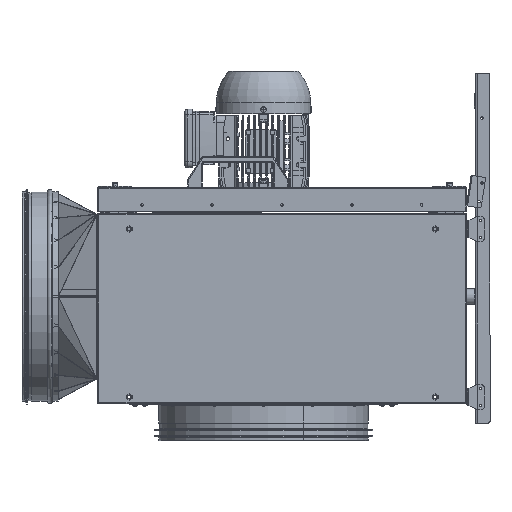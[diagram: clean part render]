
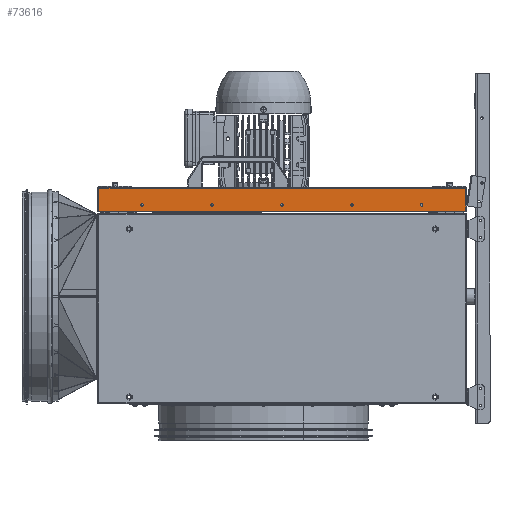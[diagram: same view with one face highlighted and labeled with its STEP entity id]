
A CAD part, left-side view. The second image highlights one B-rep face of the part: STEP entity #73616.
In plain terms, the highlighted planar face has unit normal (-1, 0, 0).
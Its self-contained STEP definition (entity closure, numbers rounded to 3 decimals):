
#315 = VERTEX_POINT ( 'NONE', #103528 ) ;
#390 = FACE_BOUND ( 'NONE', #85307, .T. ) ;
#2406 = AXIS2_PLACEMENT_3D ( 'NONE', #17476, #86596, #27366 ) ;
#2499 = CARTESIAN_POINT ( 'NONE',  ( -350.2, 310.47, 363.4 ) ) ;
#3301 = VERTEX_POINT ( 'NONE', #90267 ) ;
#3447 = FACE_BOUND ( 'NONE', #68796, .T. ) ;
#4613 = VERTEX_POINT ( 'NONE', #66504 ) ;
#6006 = EDGE_CURVE ( 'NONE', #41999, #89549, #103321, .T. ) ;
#7158 = CIRCLE ( 'NONE', #124201, 2.1 ) ;
#8288 = VERTEX_POINT ( 'NONE', #117196 ) ;
#8785 = DIRECTION ( 'NONE',  ( 0., 0., 1. ) ) ;
#9702 = ORIENTED_EDGE ( 'NONE', *, *, #99053, .T. ) ;
#10572 = DIRECTION ( 'NONE',  ( 1., 0., 0. ) ) ;
#10670 = ORIENTED_EDGE ( 'NONE', *, *, #65223, .T. ) ;
#11013 = ORIENTED_EDGE ( 'NONE', *, *, #121095, .T. ) ;
#11061 = DIRECTION ( 'NONE',  ( 1., 0., 0. ) ) ;
#11356 = EDGE_CURVE ( 'NONE', #3301, #315, #34261, .T. ) ;
#11615 = CARTESIAN_POINT ( 'NONE',  ( -350.2, 0.27, 337.5 ) ) ;
#12149 = CARTESIAN_POINT ( 'NONE',  ( -350.2, 309.27, 363.4 ) ) ;
#14020 = DIRECTION ( 'NONE',  ( 0., 0., -1. ) ) ;
#14857 = CARTESIAN_POINT ( 'NONE',  ( -350.2, 118.27, 335.4 ) ) ;
#15661 = EDGE_CURVE ( 'NONE', #315, #3301, #7158, .T. ) ;
#16901 = VERTEX_POINT ( 'NONE', #88535 ) ;
#17476 = CARTESIAN_POINT ( 'NONE',  ( -350.2, 0.27, 335.4 ) ) ;
#18457 = VERTEX_POINT ( 'NONE', #12149 ) ;
#19183 = ORIENTED_EDGE ( 'NONE', *, *, #70772, .T. ) ;
#21208 = DIRECTION ( 'NONE',  ( 1., 0., 0. ) ) ;
#22260 = CARTESIAN_POINT ( 'NONE',  ( -350.2, -117.73, 335.4 ) ) ;
#22399 = CARTESIAN_POINT ( 'NONE',  ( -350.2, -235.73, 335.4 ) ) ;
#23929 = CARTESIAN_POINT ( 'NONE',  ( -350.2, 310.47, 364.6 ) ) ;
#24177 = LINE ( 'NONE', #71232, #73686 ) ;
#24748 = DIRECTION ( 'NONE',  ( 0., 0., -1. ) ) ;
#25908 = CARTESIAN_POINT ( 'NONE',  ( -350.2, -117.73, 337.5 ) ) ;
#26597 = FACE_OUTER_BOUND ( 'NONE', #116895, .T. ) ;
#26701 = VECTOR ( 'NONE', #14020, 1000. ) ;
#27366 = DIRECTION ( 'NONE',  ( 0., 0., -1. ) ) ;
#27936 = AXIS2_PLACEMENT_3D ( 'NONE', #97574, #38311, #107505 ) ;
#29146 = EDGE_CURVE ( 'NONE', #4613, #64124, #81489, .T. ) ;
#29479 = AXIS2_PLACEMENT_3D ( 'NONE', #14857, #83989, #24748 ) ;
#30298 = CIRCLE ( 'NONE', #38941, 2.1 ) ;
#30582 = ORIENTED_EDGE ( 'NONE', *, *, #6006, .T. ) ;
#31767 = VECTOR ( 'NONE', #61632, 1000. ) ;
#31949 = VECTOR ( 'NONE', #8785, 1000. ) ;
#32171 = DIRECTION ( 'NONE',  ( 0., 0., -1. ) ) ;
#32679 = ORIENTED_EDGE ( 'NONE', *, *, #15661, .T. ) ;
#32784 = AXIS2_PLACEMENT_3D ( 'NONE', #69728, #10572, #79679 ) ;
#34261 = CIRCLE ( 'NONE', #90656, 2.1 ) ;
#35315 = DIRECTION ( 'NONE',  ( 0., 0., -1. ) ) ;
#35635 = EDGE_LOOP ( 'NONE', ( #75439, #11013 ) ) ;
#36456 = CARTESIAN_POINT ( 'NONE',  ( -350.2, 0.27, 335.4 ) ) ;
#37323 = CARTESIAN_POINT ( 'NONE',  ( -350.2, -310.07, 363.4 ) ) ;
#38311 = DIRECTION ( 'NONE',  ( 1., 0., 0. ) ) ;
#38941 = AXIS2_PLACEMENT_3D ( 'NONE', #80445, #21208, #90343 ) ;
#41999 = VERTEX_POINT ( 'NONE', #62311 ) ;
#44168 = DIRECTION ( 'NONE',  ( 1., 0., 0. ) ) ;
#44301 = PLANE ( 'NONE',  #46740 ) ;
#46429 = DIRECTION ( 'NONE',  ( 0., 0., -1. ) ) ;
#46740 = AXIS2_PLACEMENT_3D ( 'NONE', #23929, #54185, #123262 ) ;
#51989 = ORIENTED_EDGE ( 'NONE', *, *, #29146, .T. ) ;
#52847 = FACE_BOUND ( 'NONE', #69676, .T. ) ;
#54185 = DIRECTION ( 'NONE',  ( 1., 0., 0. ) ) ;
#54503 = ORIENTED_EDGE ( 'NONE', *, *, #127182, .T. ) ;
#58121 = LINE ( 'NONE', #2499, #31767 ) ;
#58886 = CIRCLE ( 'NONE', #2406, 2.1 ) ;
#60229 = EDGE_CURVE ( 'NONE', #76633, #81477, #30298, .T. ) ;
#60269 = CARTESIAN_POINT ( 'NONE',  ( -350.2, 118.27, 335.4 ) ) ;
#61632 = DIRECTION ( 'NONE',  ( 0., -1., 0. ) ) ;
#62311 = CARTESIAN_POINT ( 'NONE',  ( -350.2, 118.27, 337.5 ) ) ;
#64124 = VERTEX_POINT ( 'NONE', #37323 ) ;
#65223 = EDGE_CURVE ( 'NONE', #89549, #41999, #68230, .T. ) ;
#65922 = CARTESIAN_POINT ( 'NONE',  ( -350.2, 236.27, 337.5 ) ) ;
#66504 = CARTESIAN_POINT ( 'NONE',  ( -350.2, -310.07, 324.9 ) ) ;
#66926 = CARTESIAN_POINT ( 'NONE',  ( -350.2, 236.27, 333.3 ) ) ;
#67171 = ORIENTED_EDGE ( 'NONE', *, *, #93176, .T. ) ;
#67949 = CARTESIAN_POINT ( 'NONE',  ( -350.2, -310.07, 324.9 ) ) ;
#68230 = CIRCLE ( 'NONE', #29479, 2.1 ) ;
#68796 = EDGE_LOOP ( 'NONE', ( #54503, #77354 ) ) ;
#68878 = VERTEX_POINT ( 'NONE', #108973 ) ;
#68936 = ORIENTED_EDGE ( 'NONE', *, *, #11356, .T. ) ;
#69212 = VERTEX_POINT ( 'NONE', #25908 ) ;
#69676 = EDGE_LOOP ( 'NONE', ( #10670, #30582 ) ) ;
#69728 = CARTESIAN_POINT ( 'NONE',  ( -350.2, 236.27, 335.4 ) ) ;
#70185 = DIRECTION ( 'NONE',  ( 0., 0., -1. ) ) ;
#70772 = EDGE_CURVE ( 'NONE', #16901, #4613, #24177, .T. ) ;
#71232 = CARTESIAN_POINT ( 'NONE',  ( -350.2, -311.27, 324.9 ) ) ;
#73616 = ADVANCED_FACE ( 'NONE', ( #52847, #79185, #26597, #390, #3447, #102341 ), #44301, .F. ) ;
#73686 = VECTOR ( 'NONE', #91088, 1000. ) ;
#75439 = ORIENTED_EDGE ( 'NONE', *, *, #60229, .T. ) ;
#76633 = VERTEX_POINT ( 'NONE', #66926 ) ;
#77354 = ORIENTED_EDGE ( 'NONE', *, *, #107575, .T. ) ;
#78148 = AXIS2_PLACEMENT_3D ( 'NONE', #22260, #91394, #32171 ) ;
#79185 = FACE_BOUND ( 'NONE', #35635, .T. ) ;
#79284 = LINE ( 'NONE', #92642, #26701 ) ;
#79561 = AXIS2_PLACEMENT_3D ( 'NONE', #60269, #11061, #70185 ) ;
#79679 = DIRECTION ( 'NONE',  ( 0., 0., -1. ) ) ;
#80445 = CARTESIAN_POINT ( 'NONE',  ( -350.2, 236.27, 335.4 ) ) ;
#81477 = VERTEX_POINT ( 'NONE', #65922 ) ;
#81489 = LINE ( 'NONE', #67949, #31949 ) ;
#83989 = DIRECTION ( 'NONE',  ( 1., 0., 0. ) ) ;
#85307 = EDGE_LOOP ( 'NONE', ( #9702, #87527 ) ) ;
#86039 = CIRCLE ( 'NONE', #32784, 2.1 ) ;
#86596 = DIRECTION ( 'NONE',  ( 1., 0., 0. ) ) ;
#87527 = ORIENTED_EDGE ( 'NONE', *, *, #99097, .T. ) ;
#88535 = CARTESIAN_POINT ( 'NONE',  ( -350.2, 309.27, 324.9 ) ) ;
#89549 = VERTEX_POINT ( 'NONE', #116514 ) ;
#90267 = CARTESIAN_POINT ( 'NONE',  ( -350.2, -235.73, 337.5 ) ) ;
#90343 = DIRECTION ( 'NONE',  ( 0., 0., -1. ) ) ;
#90656 = AXIS2_PLACEMENT_3D ( 'NONE', #121673, #44168, #35315 ) ;
#91088 = DIRECTION ( 'NONE',  ( 0., -1., 0. ) ) ;
#91299 = CIRCLE ( 'NONE', #104212, 2.1 ) ;
#91394 = DIRECTION ( 'NONE',  ( 1., 0., 0. ) ) ;
#91533 = DIRECTION ( 'NONE',  ( 1., 0., 0. ) ) ;
#92642 = CARTESIAN_POINT ( 'NONE',  ( -350.2, 309.27, 363.4 ) ) ;
#92677 = CIRCLE ( 'NONE', #78148, 2.1 ) ;
#93085 = ORIENTED_EDGE ( 'NONE', *, *, #112295, .F. ) ;
#93176 = EDGE_CURVE ( 'NONE', #18457, #16901, #79284, .T. ) ;
#97574 = CARTESIAN_POINT ( 'NONE',  ( -350.2, -117.73, 335.4 ) ) ;
#99053 = EDGE_CURVE ( 'NONE', #68878, #109433, #91299, .T. ) ;
#99097 = EDGE_CURVE ( 'NONE', #109433, #68878, #58886, .T. ) ;
#102341 = FACE_BOUND ( 'NONE', #109255, .T. ) ;
#103321 = CIRCLE ( 'NONE', #79561, 2.1 ) ;
#103528 = CARTESIAN_POINT ( 'NONE',  ( -350.2, -235.73, 333.3 ) ) ;
#104212 = AXIS2_PLACEMENT_3D ( 'NONE', #36456, #105645, #46429 ) ;
#105645 = DIRECTION ( 'NONE',  ( 1., 0., 0. ) ) ;
#107505 = DIRECTION ( 'NONE',  ( 0., 0., -1. ) ) ;
#107575 = EDGE_CURVE ( 'NONE', #69212, #8288, #122980, .T. ) ;
#108973 = CARTESIAN_POINT ( 'NONE',  ( -350.2, 0.27, 333.3 ) ) ;
#109255 = EDGE_LOOP ( 'NONE', ( #32679, #68936 ) ) ;
#109433 = VERTEX_POINT ( 'NONE', #11615 ) ;
#111565 = DIRECTION ( 'NONE',  ( 0., 0., -1. ) ) ;
#112295 = EDGE_CURVE ( 'NONE', #18457, #64124, #58121, .T. ) ;
#116514 = CARTESIAN_POINT ( 'NONE',  ( -350.2, 118.27, 333.3 ) ) ;
#116895 = EDGE_LOOP ( 'NONE', ( #51989, #93085, #67171, #19183 ) ) ;
#117196 = CARTESIAN_POINT ( 'NONE',  ( -350.2, -117.73, 333.3 ) ) ;
#121095 = EDGE_CURVE ( 'NONE', #81477, #76633, #86039, .T. ) ;
#121673 = CARTESIAN_POINT ( 'NONE',  ( -350.2, -235.73, 335.4 ) ) ;
#122980 = CIRCLE ( 'NONE', #27936, 2.1 ) ;
#123262 = DIRECTION ( 'NONE',  ( 0., 0., -1. ) ) ;
#124201 = AXIS2_PLACEMENT_3D ( 'NONE', #22399, #91533, #111565 ) ;
#127182 = EDGE_CURVE ( 'NONE', #8288, #69212, #92677, .T. ) ;
